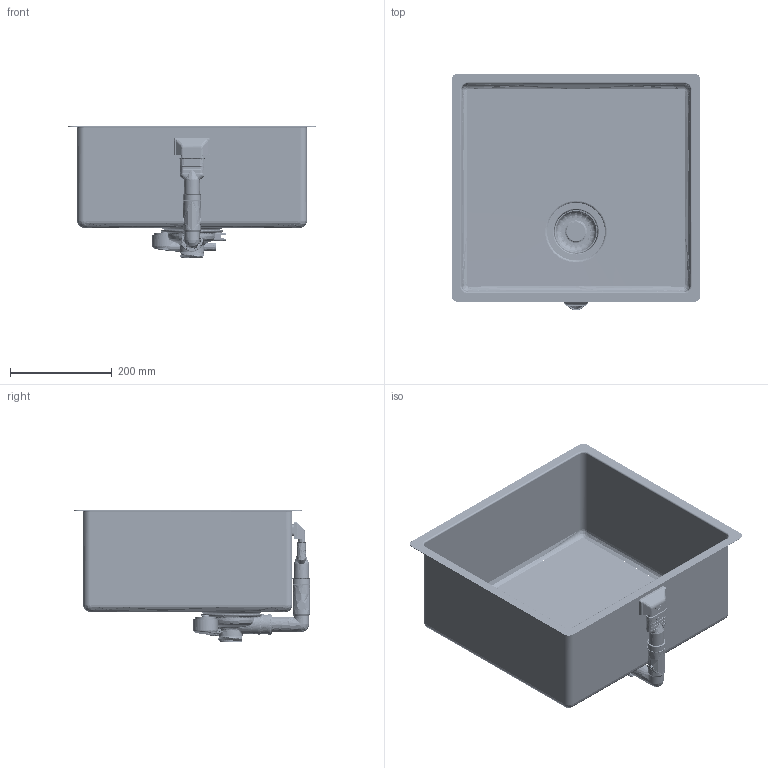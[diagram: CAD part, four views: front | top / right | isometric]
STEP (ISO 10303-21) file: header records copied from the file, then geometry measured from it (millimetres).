
FILE_DESCRIPTION(/* description */ (''),/* implementation_level */ '2;1');
FILE_NAME(/* name */ 'B6WAO4~C',/* time_stamp */ '2016-04-08T13:04:38+02:00',/* author */ (''),/* organization */ (''),/* preprocessor_version */ 'ST-DEVELOPER v15',/* originating_system */ '',/* authorisation */ '');
FILE_SCHEMA (('AUTOMOTIVE_DESIGN'));
Products named in the file (1): Document
Bounding box: 490 x 466.5 x 259.81 mm (x, y, z)
Surface area: 1271197.1 mm2 (no closed solid volume)
Topology: 0 solids, 5581 shells, 5801 faces, 30913 edges, 30448 vertices
Faces by surface type: plane 3279, bspline 2522
Entity records: 398580 total; most frequent: CARTESIAN_POINT 191197, ORIENTED_EDGE 31312, EDGE_CURVE 30861, VERTEX_POINT 30446, B_SPLINE_CURVE_WITH_KNOTS 24166, EDGE_LOOP 6193, ADVANCED_FACE 5801, FACE_OUTER_BOUND 5801
